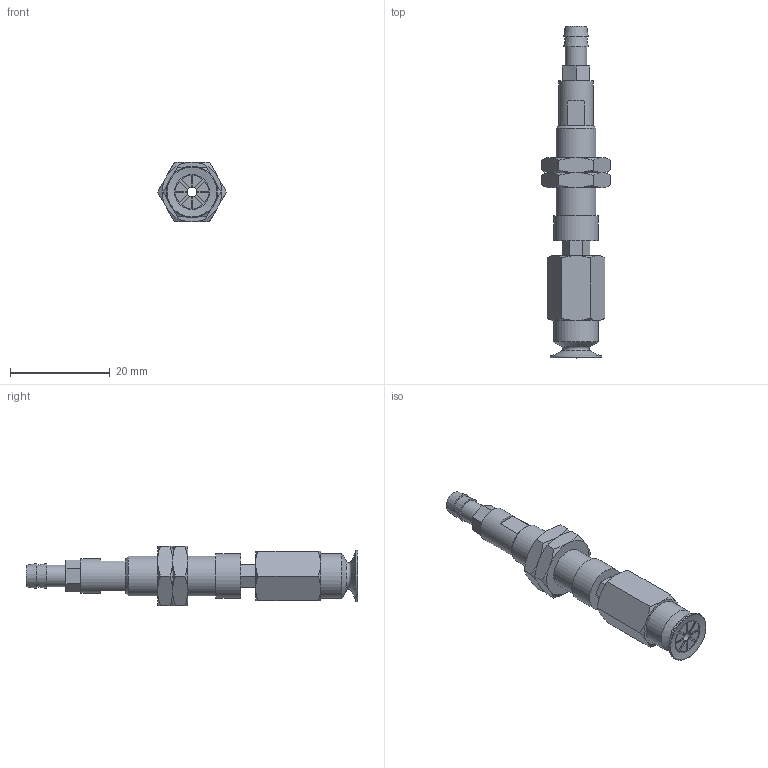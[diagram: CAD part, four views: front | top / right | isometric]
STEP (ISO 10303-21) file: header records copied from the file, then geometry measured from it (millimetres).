
FILE_DESCRIPTION(('STEP AP203'),'1');
FILE_NAME('-T.stp','2025-08-12T08:00:07',(' '),(' '),'Spatial InterOp 3D',' ',' ');
FILE_SCHEMA(('CONFIG_CONTROL_DESIGN'));
Length unit declared in the file: millimetre
Products named in the file (7): BNABPATH-10B-3-※-T; NAPATH-10A-3--F; Nut-10A-S; CONNECTOR-10A-3-T-PA; BPAG-10B-※; NAPATH-10A-3--M; ADAPTER
Assembly tree (7 placements, depth 2):
  BNABPATH-10B-3-※-T
    NAPATH-10A-3--F
    Nut-10A-S  x2
    CONNECTOR-10A-3-T-PA
    BPAG-10B-※
    NAPATH-10A-3--M
    ADAPTER
Bounding box: 13.86 x 66.5 x 12 mm (x, y, z)
Volume: 3581.8 mm3; surface area: 4407.6 mm2
Topology: 7 solids, 7 shells, 175 faces, 399 edges, 249 vertices
Faces by surface type: plane 89, cone 49, cylinder 26, torus 11
Full cylindrical faces by diameter (mm): 2 x3, 3 x1, 4 x2, 4.134 x1, 4.3 x1, 5 x1, 6 x2, 7 x2, 7.188 x2, 8 x1, 9 x2
Entity records: 4580 total; most frequent: CARTESIAN_POINT 964, DIRECTION 690, ORIENTED_EDGE 606, EDGE_CURVE 303, AXIS2_PLACEMENT_3D 275, EDGE_LOOP 214, VERTEX_POINT 213, FACE_OUTER_BOUND 180
